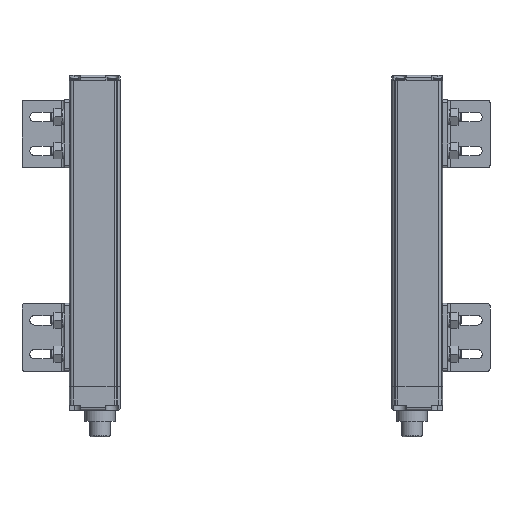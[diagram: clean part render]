
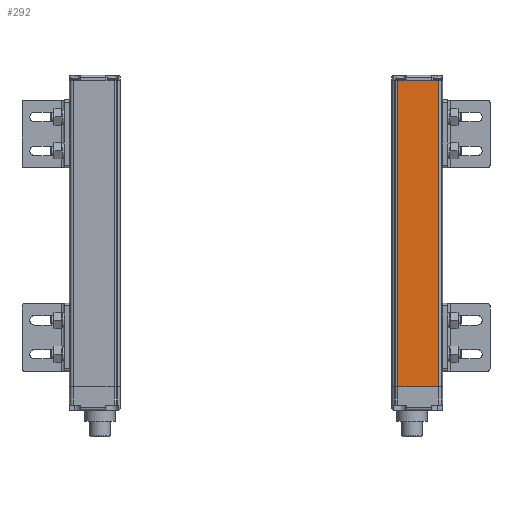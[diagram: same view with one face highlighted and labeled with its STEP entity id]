
A CAD part, top view. The second image highlights one B-rep face of the part: STEP entity #292.
In plain terms, the highlighted planar face has unit normal (0, 0, 1).
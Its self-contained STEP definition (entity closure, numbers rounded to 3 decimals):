
#292 = ADVANCED_FACE( '', ( #710 ), #711, .F. );
#710 = FACE_OUTER_BOUND( '', #1428, .T. );
#711 = PLANE( '', #1429 );
#1428 = EDGE_LOOP( '', ( #2730, #2731, #2732, #2733 ) );
#1429 = AXIS2_PLACEMENT_3D( '', #2734, #2735, #2736 );
#2730 = ORIENTED_EDGE( '', *, *, #4987, .T. );
#2731 = ORIENTED_EDGE( '', *, *, #4903, .T. );
#2732 = ORIENTED_EDGE( '', *, *, #4986, .F. );
#2733 = ORIENTED_EDGE( '', *, *, #4768, .F. );
#2734 = CARTESIAN_POINT( '', ( 3.66, 197.5, 14.01 ) );
#2735 = DIRECTION( '', ( 0., 0., -1. ) );
#2736 = DIRECTION( '', ( -1., 0., 0. ) );
#4768 = EDGE_CURVE( '', #5721, #5723, #5724, .T. );
#4903 = EDGE_CURVE( '', #5977, #5975, #5978, .T. );
#4986 = EDGE_CURVE( '', #5723, #5975, #6105, .T. );
#4987 = EDGE_CURVE( '', #5721, #5977, #6106, .T. );
#5721 = VERTEX_POINT( '', #7298 );
#5723 = VERTEX_POINT( '', #7300 );
#5724 = LINE( '', #7301, #7302 );
#5975 = VERTEX_POINT( '', #7626 );
#5977 = VERTEX_POINT( '', #7628 );
#5978 = LINE( '', #7629, #7630 );
#6105 = LINE( '', #7815, #7816 );
#6106 = LINE( '', #7817, #7818 );
#7298 = CARTESIAN_POINT( '', ( 3.66, 194.5, 14.01 ) );
#7300 = CARTESIAN_POINT( '', ( 27.672, 194.5, 14.01 ) );
#7301 = CARTESIAN_POINT( '', ( 3.66, 194.5, 14.01 ) );
#7302 = VECTOR( '', #9161, 1000. );
#7626 = CARTESIAN_POINT( '', ( 27.672, 14., 14.01 ) );
#7628 = CARTESIAN_POINT( '', ( 3.66, 14., 14.01 ) );
#7629 = CARTESIAN_POINT( '', ( 3.66, 14., 14.01 ) );
#7630 = VECTOR( '', #9418, 1000. );
#7815 = CARTESIAN_POINT( '', ( 27.672, 197.5, 14.01 ) );
#7816 = VECTOR( '', #9549, 1000. );
#7817 = CARTESIAN_POINT( '', ( 3.66, 197.5, 14.01 ) );
#7818 = VECTOR( '', #9550, 1000. );
#9161 = DIRECTION( '', ( 1., 0., 0. ) );
#9418 = DIRECTION( '', ( 1., 0., 0. ) );
#9549 = DIRECTION( '', ( 0., -1., 0. ) );
#9550 = DIRECTION( '', ( 0., -1., 0. ) );
